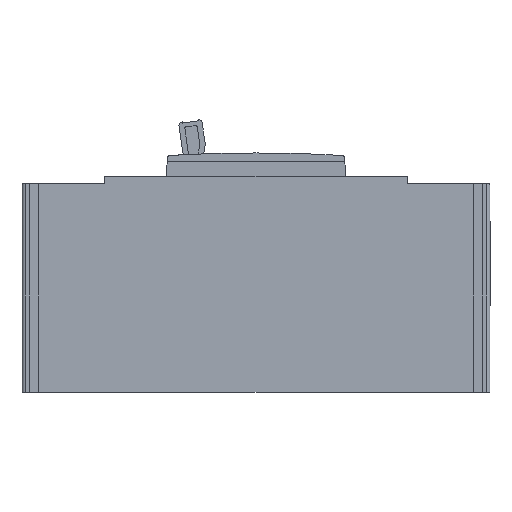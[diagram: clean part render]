
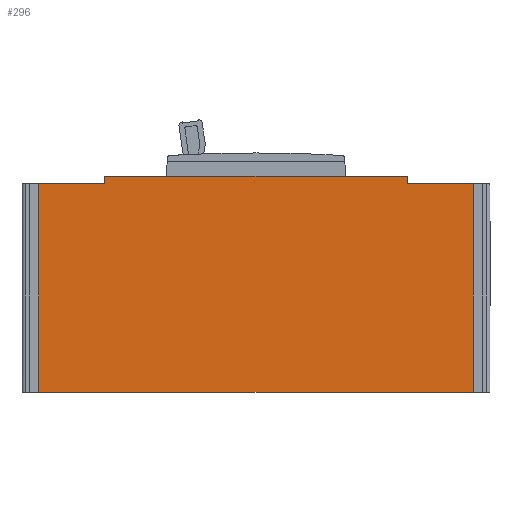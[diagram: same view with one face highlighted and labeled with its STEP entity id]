
A CAD part, left-side view. The second image highlights one B-rep face of the part: STEP entity #296.
In plain terms, the highlighted planar face has unit normal (-1, 0, 0).
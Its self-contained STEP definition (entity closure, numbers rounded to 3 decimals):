
#46 = ORIENTED_EDGE ( 'NONE', *, *, #1030, .T. ) ;
#73 = CARTESIAN_POINT ( 'NONE',  ( -37.5, 0., 58. ) ) ;
#95 = DIRECTION ( 'NONE',  ( 0., 0., 1. ) ) ;
#199 = CARTESIAN_POINT ( 'NONE',  ( -37.5, -60.3, 0. ) ) ;
#242 = ORIENTED_EDGE ( 'NONE', *, *, #3310, .F. ) ;
#296 = ADVANCED_FACE ( 'NONE', ( #2014 ), #6142, .F. ) ;
#306 = LINE ( 'NONE', #7609, #6470 ) ;
#855 = EDGE_CURVE ( 'NONE', #3428, #4232, #4644, .T. ) ;
#942 = CARTESIAN_POINT ( 'NONE',  ( -37.5, -42., 58. ) ) ;
#1030 = EDGE_CURVE ( 'NONE', #1180, #7235, #7212, .T. ) ;
#1038 = CARTESIAN_POINT ( 'NONE',  ( -37.5, 60.3, 58. ) ) ;
#1180 = VERTEX_POINT ( 'NONE', #2905 ) ;
#1228 = LINE ( 'NONE', #6823, #2517 ) ;
#1298 = DIRECTION ( 'NONE',  ( 0., 0., -1. ) ) ;
#1383 = CARTESIAN_POINT ( 'NONE',  ( -37.5, -42., 0. ) ) ;
#1540 = VERTEX_POINT ( 'NONE', #6897 ) ;
#2014 = FACE_OUTER_BOUND ( 'NONE', #6514, .T. ) ;
#2414 = VECTOR ( 'NONE', #4945, 1000. ) ;
#2426 = EDGE_CURVE ( 'NONE', #1180, #2775, #6752, .T. ) ;
#2466 = CARTESIAN_POINT ( 'NONE',  ( -37.5, 0., 0. ) ) ;
#2517 = VECTOR ( 'NONE', #4473, 1000. ) ;
#2593 = CARTESIAN_POINT ( 'NONE',  ( -37.5, 0., 58. ) ) ;
#2775 = VERTEX_POINT ( 'NONE', #1038 ) ;
#2905 = CARTESIAN_POINT ( 'NONE',  ( -37.5, 60.3, 0. ) ) ;
#2983 = ORIENTED_EDGE ( 'NONE', *, *, #6597, .T. ) ;
#3081 = DIRECTION ( 'NONE',  ( 1., 0., 0. ) ) ;
#3303 = CARTESIAN_POINT ( 'NONE',  ( -37.5, 0., 0. ) ) ;
#3310 = EDGE_CURVE ( 'NONE', #1540, #3428, #306, .T. ) ;
#3372 = DIRECTION ( 'NONE',  ( 0., -1., 0. ) ) ;
#3428 = VERTEX_POINT ( 'NONE', #7075 ) ;
#3663 = EDGE_CURVE ( 'NONE', #5626, #1540, #1228, .T. ) ;
#3764 = CARTESIAN_POINT ( 'NONE',  ( -37.5, -60.3, 58. ) ) ;
#3796 = ORIENTED_EDGE ( 'NONE', *, *, #855, .F. ) ;
#3915 = CARTESIAN_POINT ( 'NONE',  ( -37.5, 42., 58. ) ) ;
#4034 = LINE ( 'NONE', #73, #2414 ) ;
#4072 = VECTOR ( 'NONE', #4492, 1000. ) ;
#4080 = EDGE_CURVE ( 'NONE', #2775, #5626, #4034, .T. ) ;
#4232 = VERTEX_POINT ( 'NONE', #942 ) ;
#4428 = CARTESIAN_POINT ( 'NONE',  ( -37.5, -60.3, 0. ) ) ;
#4473 = DIRECTION ( 'NONE',  ( 0., 0., 1. ) ) ;
#4492 = DIRECTION ( 'NONE',  ( 0., -1., 0. ) ) ;
#4577 = VECTOR ( 'NONE', #7359, 1000. ) ;
#4612 = VERTEX_POINT ( 'NONE', #3764 ) ;
#4644 = LINE ( 'NONE', #1383, #7593 ) ;
#4945 = DIRECTION ( 'NONE',  ( 0., -1., 0. ) ) ;
#5583 = LINE ( 'NONE', #199, #4577 ) ;
#5626 = VERTEX_POINT ( 'NONE', #3915 ) ;
#5651 = ORIENTED_EDGE ( 'NONE', *, *, #6555, .F. ) ;
#5774 = ORIENTED_EDGE ( 'NONE', *, *, #3663, .F. ) ;
#5782 = VECTOR ( 'NONE', #6782, 1000. ) ;
#5834 = ORIENTED_EDGE ( 'NONE', *, *, #2426, .F. ) ;
#5957 = CARTESIAN_POINT ( 'NONE',  ( -37.5, 60.3, 0. ) ) ;
#6142 = PLANE ( 'NONE',  #7565 ) ;
#6180 = DIRECTION ( 'NONE',  ( 0., 0., -1. ) ) ;
#6196 = VECTOR ( 'NONE', #95, 1000. ) ;
#6470 = VECTOR ( 'NONE', #3372, 1000. ) ;
#6514 = EDGE_LOOP ( 'NONE', ( #2983, #5651, #3796, #242, #5774, #6982, #5834, #46 ) ) ;
#6527 = LINE ( 'NONE', #2593, #5782 ) ;
#6555 = EDGE_CURVE ( 'NONE', #4232, #4612, #6527, .T. ) ;
#6597 = EDGE_CURVE ( 'NONE', #7235, #4612, #5583, .T. ) ;
#6752 = LINE ( 'NONE', #5957, #6196 ) ;
#6782 = DIRECTION ( 'NONE',  ( 0., -1., 0. ) ) ;
#6823 = CARTESIAN_POINT ( 'NONE',  ( -37.5, 42., 0. ) ) ;
#6897 = CARTESIAN_POINT ( 'NONE',  ( -37.5, 42., 60. ) ) ;
#6982 = ORIENTED_EDGE ( 'NONE', *, *, #4080, .F. ) ;
#7075 = CARTESIAN_POINT ( 'NONE',  ( -37.5, -42., 60. ) ) ;
#7212 = LINE ( 'NONE', #3303, #4072 ) ;
#7235 = VERTEX_POINT ( 'NONE', #4428 ) ;
#7359 = DIRECTION ( 'NONE',  ( 0., 0., 1. ) ) ;
#7565 = AXIS2_PLACEMENT_3D ( 'NONE', #2466, #3081, #6180 ) ;
#7593 = VECTOR ( 'NONE', #1298, 1000. ) ;
#7609 = CARTESIAN_POINT ( 'NONE',  ( -37.5, 0., 60. ) ) ;
